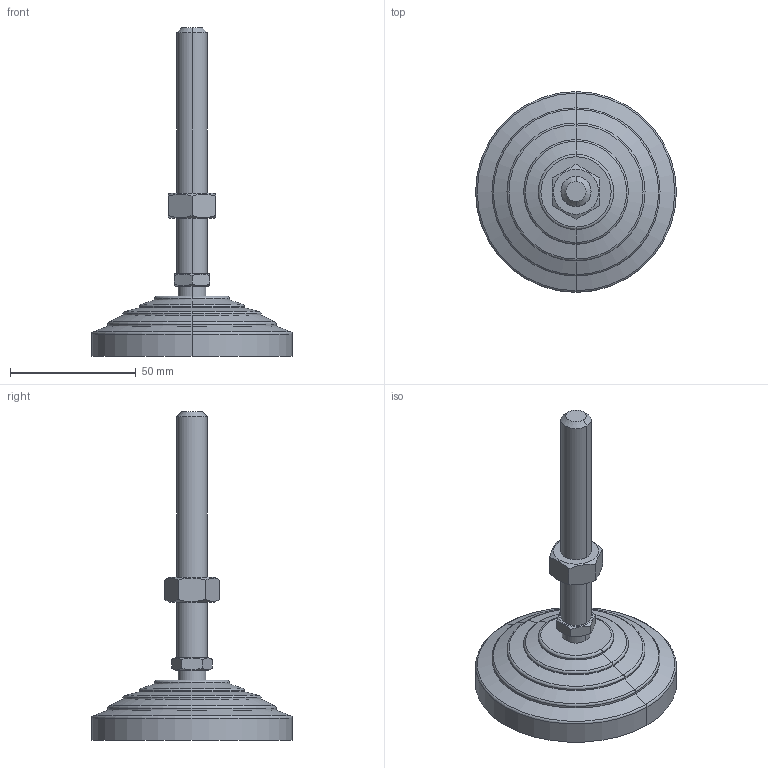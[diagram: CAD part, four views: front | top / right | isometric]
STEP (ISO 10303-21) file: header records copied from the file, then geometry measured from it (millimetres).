
FILE_DESCRIPTION (( 'STEP AP203' ), '1' );
FILE_NAME ('lva80s12c-sus.STEP', '2021-10-25T03:33:55', ( '' ), ( '' ), 'SwSTEP 2.0', 'SolidWorks 2020', '' );
FILE_SCHEMA (( 'CONFIG_CONTROL_DESIGN' ));
Length unit declared in the file: millimetre
Products named in the file (3): lva80s12c-sus; lva80s12c-sus_01; lva80s12c-sus_02
Assembly tree (2 placements, depth 2):
  lva80s12c-sus
    lva80s12c-sus_01
    lva80s12c-sus_02
Bounding box: 80 x 80 x 131 mm (x, y, z)
Volume: 97096.6 mm3; surface area: 18936.1 mm2
Topology: 2 solids, 2 shells, 63 faces, 138 edges, 82 vertices
Faces by surface type: plane 19, cone 18, cylinder 16, torus 10
Entity records: 2217 total; most frequent: CARTESIAN_POINT 542, DIRECTION 306, ORIENTED_EDGE 276, EDGE_CURVE 138, AXIS2_PLACEMENT_3D 130, VERTEX_POINT 82, EDGE_LOOP 68, FACE_OUTER_BOUND 63
